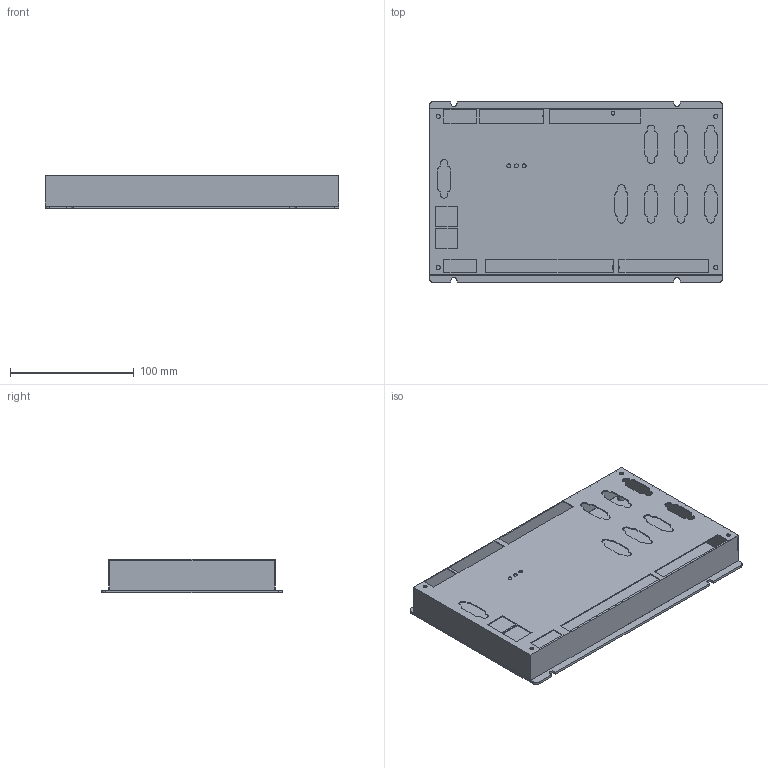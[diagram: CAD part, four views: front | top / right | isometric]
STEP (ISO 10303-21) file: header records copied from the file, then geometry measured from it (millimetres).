
FILE_DESCRIPTION (( 'STEP AP203' ), '1' );
FILE_NAME ('力为控制技术-3D模型-《ECI206R》.STEP', '2024-12-30T02:13:29', ( '' ), ( '' ), 'SwSTEP 2.0', 'SolidWorks 2020', '' );
FILE_SCHEMA (( 'CONFIG_CONTROL_DESIGN' ));
Length unit declared in the file: millimetre
Products named in the file (1): 力为控制技术-3D模型-《ECI206R》
Bounding box: 237 x 146 x 27.2 mm (x, y, z)
Volume: 106223.1 mm3; surface area: 160822.9 mm2
Topology: 2 solids, 2 shells, 203 faces, 576 edges, 384 vertices
Faces by surface type: plane 115, cylinder 88
Entity records: 6793 total; most frequent: CARTESIAN_POINT 1164, DIRECTION 1160, ORIENTED_EDGE 1152, EDGE_CURVE 576, LINE 400, VECTOR 400, VERTEX_POINT 384, AXIS2_PLACEMENT_3D 380
